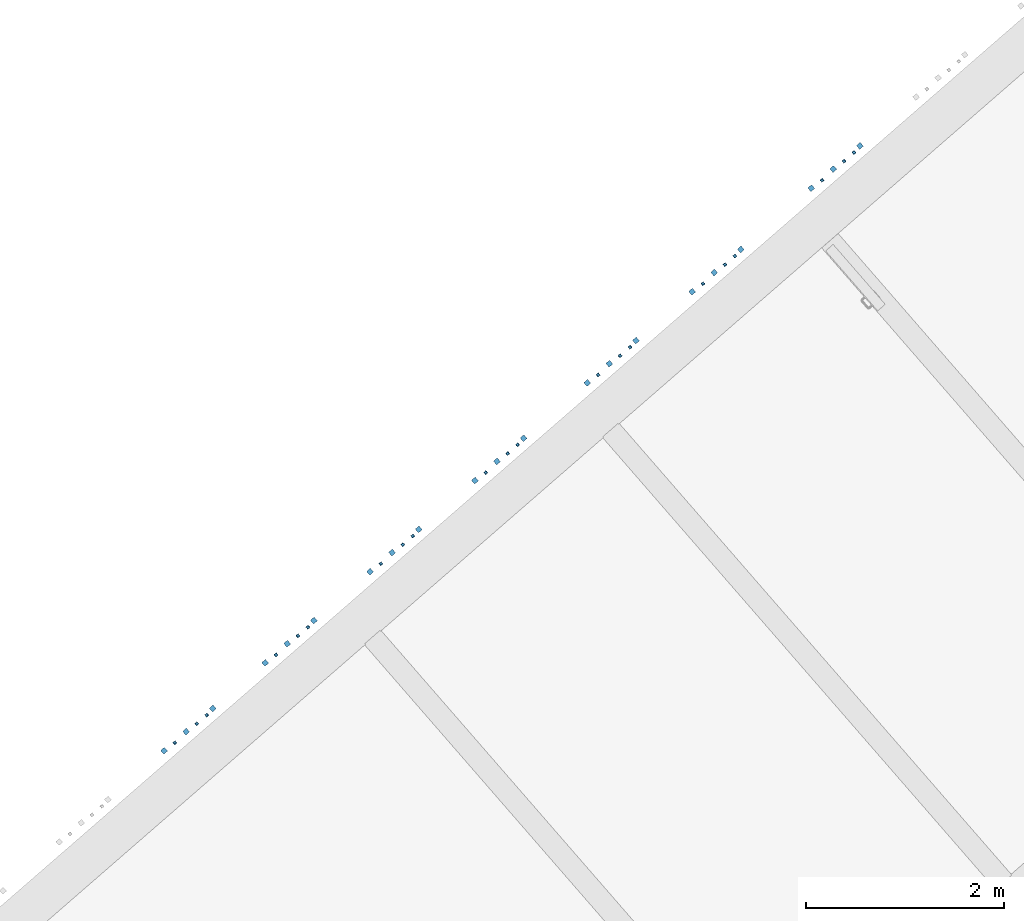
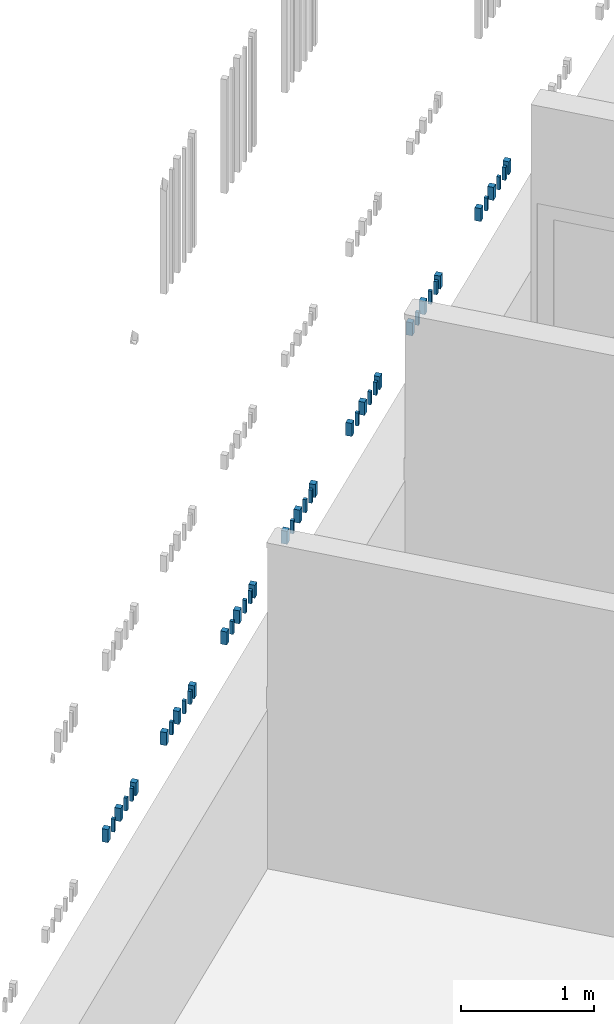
# One storey, part 3 of 124: 42 walls.
"""IFC2X3 building model written with IfcOpenShell, lengths in millimetres."""

from ifc_helpers import new_model, entity, si_unit, converted_unit, derived_unit, money_unit, direction, frame, origin_with_axes, origin_2d_with_axis, place, context, subcontext, project, spatial, rectangle, extrude, material, type_object, element, save


model = new_model("IFC2X3")

# Units and contexts
model_context = context("Model", 3, precision=1e-05, world=origin_with_axes(), true_north=direction((0.0, 1.0)))
body_context = subcontext(model_context, "Body", "Model", "MODEL_VIEW")
ifc_project = project(units=[si_unit("LENGTHUNIT", "METRE", prefix="MILLI"), si_unit("AREAUNIT", "SQUARE_METRE"), si_unit("VOLUMEUNIT", "CUBIC_METRE"), converted_unit("PLANEANGLEUNIT", "DEGREE", entity("IfcPlaneAngleMeasure", 0.0174532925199), si_unit("PLANEANGLEUNIT", "RADIAN"), dimensions=[0, 0, 0, 0, 0, 0, 0]), si_unit("SOLIDANGLEUNIT", "STERADIAN"), money_unit("EUR"), converted_unit("TIMEUNIT", "Year", entity("IfcTimeMeasure", 31556926.0), si_unit("TIMEUNIT", "SECOND"), dimensions=[0, 0, 1, 0, 0, 0, 0]), si_unit("MASSUNIT", "GRAM", prefix="KILO"), si_unit("THERMODYNAMICTEMPERATUREUNIT", "DEGREE_CELSIUS"), si_unit("LUMINOUSINTENSITYUNIT", "LUMEN"), si_unit("ENERGYUNIT", "JOULE", prefix="MEGA"), derived_unit("THERMALCONDUCTANCEUNIT", [(si_unit("POWERUNIT", "WATT"), 1), (si_unit("LENGTHUNIT", "METRE"), -1), (si_unit("THERMODYNAMICTEMPERATUREUNIT", "KELVIN"), -1)]), derived_unit("SPECIFICHEATCAPACITYUNIT", [(si_unit("ENERGYUNIT", "JOULE"), 1), (si_unit("MASSUNIT", "GRAM", prefix="KILO"), -1), (si_unit("THERMODYNAMICTEMPERATUREUNIT", "KELVIN"), -1)]), derived_unit("MASSDENSITYUNIT", [(si_unit("MASSUNIT", "GRAM", prefix="KILO"), 1), (si_unit("VOLUMEUNIT", "CUBIC_METRE"), -1)])], contexts=[model_context])

# Site, building, storey
site_placement = place(None, origin_with_axes())
site = spatial("IfcSite", under=ifc_project, at=site_placement, Name="Site", CompositionType="ELEMENT")
building_placement = place(site_placement, origin_with_axes())
building = spatial("IfcBuilding", under=site, at=building_placement, Name="Building", CompositionType="ELEMENT")
storey_placement = place(building_placement, frame((0.0, 0.0, -1615.0), z_axis=(0.0, 0.0, 1.0), x_axis=(1.0, 0.0, 0.0)))
storey = spatial("IfcBuildingStorey", under=building, at=storey_placement, Name="0  korrus", CompositionType="ELEMENT", Elevation=-1615.0)

# Walls
ifc_material = material(Name="Site specified")
wall_type = type_object("IfcWallType", Name="Puitfassaadi ribistik", PredefinedType="NOTDEFINED")
wall_1_placement = place(storey_placement, frame((146045.134168, 96976.9388997, 1615.0), z_axis=(0.0, 0.0, 1.0), x_axis=(0.754709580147, 0.656059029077, 0.0)))
element("IfcWall", 1, at=wall_1_placement, inside=storey, type_object=wall_type, material=ifc_material, Name="Site specified", context=body_context, shape_type="SweptSolid", body=[
    extrude(rectangle(XDim=28.0, YDim=28.0, at=origin_2d_with_axis()), frame((0.0, 0.0, 0.0), z_axis=(0.0, 0.0, -1.0), x_axis=(-1.0, 0.0, 0.0)), (0.0, 0.0, -1.0), 120.0),
])
for number, where, z_axis, x_axis, name in (
    (2, (146205.465437, 97130.887889, 1615.0), (0.0, 0.0, 1.0), (0.754709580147, 0.656059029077, 0.0), "Site specified"),
    (3, (145936.784575, 96897.3271788, 1615.0), (0.0, 0.0, 1.0), (0.754709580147, 0.656059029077, 0.0), "Site specified"),
):
    element("IfcWall", number, at=place(storey_placement, frame(where, z_axis=z_axis, x_axis=x_axis)), inside=storey, type_object=wall_type, material=ifc_material, Name=name, context=body_context, shape_type="SweptSolid", body=[
        extrude(rectangle(XDim=50.0, YDim=50.0, at=origin_2d_with_axis()), frame((0.0, 0.0, 0.0), z_axis=(0.0, 0.0, -1.0), x_axis=(-1.0, 0.0, 0.0)), (0.0, 0.0, -1.0), 120.0),
    ])
wall_2_placement = place(storey_placement, frame((145824.004282, 96784.7136232, 1615.0), z_axis=(0.0, 0.0, 1.0), x_axis=(0.754709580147, 0.656059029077, 0.0)))
element("IfcWall", 4, at=wall_2_placement, inside=storey, type_object=wall_type, material=ifc_material, Name="Site specified", context=body_context, shape_type="SweptSolid", body=[
    extrude(rectangle(XDim=28.0, YDim=28.0, at=origin_2d_with_axis()), frame((0.0, 0.0, 0.0), z_axis=(0.0, 0.0, -1.0), x_axis=(-1.0, 0.0, 0.0)), (0.0, 0.0, -1.0), 120.0),
])
wall_3_placement = place(storey_placement, frame((145714.89996, 96704.4458257, 1615.0), z_axis=(0.0, 0.0, 1.0), x_axis=(0.754709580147, 0.656059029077, 0.0)))
element("IfcWall", 5, at=wall_3_placement, inside=storey, type_object=wall_type, material=ifc_material, Name="Site specified", context=body_context, shape_type="SweptSolid", body=[
    extrude(rectangle(XDim=50.0, YDim=50.0, at=origin_2d_with_axis()), frame((0.0, 0.0, 0.0), z_axis=(0.0, 0.0, -1.0), x_axis=(-1.0, 0.0, 0.0)), (0.0, 0.0, -1.0), 120.0),
])
for number, where, z_axis, x_axis, name in (
    (6, (146145.510541, 97064.19475, 1615.0), (0.0, 0.0, 1.0), (0.754709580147, 0.656059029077, 0.0), "Site specified"),
    (7, (147164.368471, 97949.8744368, 1615.0), (0.0, 0.0, 1.0), (0.754709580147, 0.656059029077, 0.0), "Site specified"),
    (8, (147063.992098, 97862.6185865, 1615.0), (0.0, 0.0, 1.0), (0.754709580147, 0.656059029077, 0.0), "Site specified"),
):
    element("IfcWall", number, at=place(storey_placement, frame(where, z_axis=z_axis, x_axis=x_axis)), inside=storey, type_object=wall_type, material=ifc_material, Name=name, context=body_context, shape_type="SweptSolid", body=[
        extrude(rectangle(XDim=28.0, YDim=28.0, at=origin_2d_with_axis()), frame((0.0, 0.0, 0.0), z_axis=(0.0, 0.0, -1.0), x_axis=(-1.0, 0.0, 0.0)), (0.0, 0.0, -1.0), 120.0),
    ])
for number, where, z_axis, x_axis, name in (
    (9, (147224.323367, 98016.5675757, 1615.0), (0.0, 0.0, 1.0), (0.754709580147, 0.656059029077, 0.0), "Site specified"),
    (10, (146955.642505, 97783.0068656, 1615.0), (0.0, 0.0, 1.0), (0.754709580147, 0.656059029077, 0.0), "Site specified"),
    (11, (152235.590973, 102372.796046, 1615.0), (0.0, 0.0, 1.0), (0.754709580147, 0.656059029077, 0.0), "Site specified"),
):
    element("IfcWall", number, at=place(storey_placement, frame(where, z_axis=z_axis, x_axis=x_axis)), inside=storey, type_object=wall_type, material=ifc_material, Name=name, context=body_context, shape_type="SweptSolid", body=[
        extrude(rectangle(XDim=50.0, YDim=50.0, at=origin_2d_with_axis()), frame((0.0, 0.0, 0.0), z_axis=(0.0, 0.0, -1.0), x_axis=(-1.0, 0.0, 0.0)), (0.0, 0.0, -1.0), 120.0),
    ])
for number, where, z_axis, x_axis, name in (
    (12, (152344.695295, 102453.063844, 1615.0), (0.0, 0.0, 1.0), (0.754709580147, 0.656059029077, 0.0), "Site specified"),
    (13, (152666.201554, 102732.54497, 1615.0), (0.0, 0.0, 1.0), (0.754709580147, 0.656059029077, 0.0), "Site specified"),
    (14, (152565.825181, 102645.28912, 1615.0), (0.0, 0.0, 1.0), (0.754709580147, 0.656059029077, 0.0), "Site specified"),
):
    element("IfcWall", number, at=place(storey_placement, frame(where, z_axis=z_axis, x_axis=x_axis)), inside=storey, type_object=wall_type, material=ifc_material, Name=name, context=body_context, shape_type="SweptSolid", body=[
        extrude(rectangle(XDim=28.0, YDim=28.0, at=origin_2d_with_axis()), frame((0.0, 0.0, 0.0), z_axis=(0.0, 0.0, -1.0), x_axis=(-1.0, 0.0, 0.0)), (0.0, 0.0, -1.0), 120.0),
    ])
for number, where, z_axis, x_axis, name in (
    (15, (152726.15645, 102799.238109, 1615.0), (0.0, 0.0, 1.0), (0.754709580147, 0.656059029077, 0.0), "Site specified"),
    (16, (152457.475588, 102565.677399, 1615.0), (0.0, 0.0, 1.0), (0.754709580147, 0.656059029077, 0.0), "Site specified"),
    (17, (147790.351199, 98508.6080632, 1615.0), (0.0, 0.0, 1.0), (0.754709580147, 0.656059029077, 0.0), "Site specified"),
):
    element("IfcWall", number, at=place(storey_placement, frame(where, z_axis=z_axis, x_axis=x_axis)), inside=storey, type_object=wall_type, material=ifc_material, Name=name, context=body_context, shape_type="SweptSolid", body=[
        extrude(rectangle(XDim=50.0, YDim=50.0, at=origin_2d_with_axis()), frame((0.0, 0.0, 0.0), z_axis=(0.0, 0.0, -1.0), x_axis=(-1.0, 0.0, 0.0)), (0.0, 0.0, -1.0), 120.0),
    ])
for number, where, z_axis, x_axis, name in (
    (18, (148220.96178, 98868.3569875, 1615.0), (0.0, 0.0, 1.0), (0.754709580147, 0.656059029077, 0.0), "Site specified"),
    (19, (147899.455521, 98588.8758606, 1615.0), (0.0, 0.0, 1.0), (0.754709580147, 0.656059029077, 0.0), "Site specified"),
    (20, (148120.585406, 98781.1011372, 1615.0), (0.0, 0.0, 1.0), (0.754709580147, 0.656059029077, 0.0), "Site specified"),
):
    element("IfcWall", number, at=place(storey_placement, frame(where, z_axis=z_axis, x_axis=x_axis)), inside=storey, type_object=wall_type, material=ifc_material, Name=name, context=body_context, shape_type="SweptSolid", body=[
        extrude(rectangle(XDim=28.0, YDim=28.0, at=origin_2d_with_axis()), frame((0.0, 0.0, 0.0), z_axis=(0.0, 0.0, -1.0), x_axis=(-1.0, 0.0, 0.0)), (0.0, 0.0, -1.0), 120.0),
    ])
for number, where, z_axis, x_axis, name in (
    (21, (148280.916676, 98935.0501264, 1615.0), (0.0, 0.0, 1.0), (0.754709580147, 0.656059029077, 0.0), "Site specified"),
    (22, (148012.235814, 98701.4894163, 1615.0), (0.0, 0.0, 1.0), (0.754709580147, 0.656059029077, 0.0), "Site specified"),
    (23, (146733.75789, 97590.1255125, 1615.0), (0.0, 0.0, 1.0), (0.754709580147, 0.656059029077, 0.0), "Site specified"),
):
    element("IfcWall", number, at=place(storey_placement, frame(where, z_axis=z_axis, x_axis=x_axis)), inside=storey, type_object=wall_type, material=ifc_material, Name=name, context=body_context, shape_type="SweptSolid", body=[
        extrude(rectangle(XDim=50.0, YDim=50.0, at=origin_2d_with_axis()), frame((0.0, 0.0, 0.0), z_axis=(0.0, 0.0, -1.0), x_axis=(-1.0, 0.0, 0.0)), (0.0, 0.0, -1.0), 120.0),
    ])
wall_4_placement = place(storey_placement, frame((146842.862213, 97670.3933099, 1615.0), z_axis=(0.0, 0.0, 1.0), x_axis=(0.754709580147, 0.656059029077, 0.0)))
element("IfcWall", 24, at=wall_4_placement, inside=storey, type_object=wall_type, material=ifc_material, Name="Site specified", context=body_context, shape_type="SweptSolid", body=[
    extrude(rectangle(XDim=28.0, YDim=28.0, at=origin_2d_with_axis()), frame((0.0, 0.0, 0.0), z_axis=(0.0, 0.0, -1.0), x_axis=(-1.0, 0.0, 0.0)), (0.0, 0.0, -1.0), 120.0),
])
wall_5_placement = place(storey_placement, frame((149068.82933, 99619.9721469, 1615.0), z_axis=(0.0, 0.0, 1.0), x_axis=(0.754709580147, 0.656059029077, 0.0)))
element("IfcWall", 25, at=wall_5_placement, inside=storey, type_object=wall_type, material=ifc_material, Name="Site specified", context=body_context, shape_type="SweptSolid", body=[
    extrude(rectangle(XDim=50.0, YDim=50.0, at=origin_2d_with_axis()), frame((0.0, 0.0, 0.0), z_axis=(0.0, 0.0, -1.0), x_axis=(-1.0, 0.0, 0.0)), (0.0, 0.0, -1.0), 120.0),
])
for number, where, z_axis, x_axis, name in (
    (26, (149177.178922, 99699.5838678, 1615.0), (0.0, 0.0, 1.0), (0.754709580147, 0.656059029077, 0.0), "Site specified"),
    (27, (149277.555296, 99786.8397181, 1615.0), (0.0, 0.0, 1.0), (0.754709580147, 0.656059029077, 0.0), "Site specified"),
    (28, (148956.049037, 99507.3585913, 1615.0), (0.0, 0.0, 1.0), (0.754709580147, 0.656059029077, 0.0), "Site specified"),
):
    element("IfcWall", number, at=place(storey_placement, frame(where, z_axis=z_axis, x_axis=x_axis)), inside=storey, type_object=wall_type, material=ifc_material, Name=name, context=body_context, shape_type="SweptSolid", body=[
        extrude(rectangle(XDim=28.0, YDim=28.0, at=origin_2d_with_axis()), frame((0.0, 0.0, 0.0), z_axis=(0.0, 0.0, -1.0), x_axis=(-1.0, 0.0, 0.0)), (0.0, 0.0, -1.0), 120.0),
    ])
for number, where, z_axis, x_axis, name in (
    (29, (148846.944715, 99427.0907938, 1615.0), (0.0, 0.0, 1.0), (0.754709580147, 0.656059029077, 0.0), "Site specified"),
    (30, (149337.510192, 99853.5328571, 1615.0), (0.0, 0.0, 1.0), (0.754709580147, 0.656059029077, 0.0), "Site specified"),
    (31, (150200.8937, 100604.060691, 1615.0), (0.0, 0.0, 1.0), (0.754709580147, 0.656059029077, 0.0), "Site specified"),
    (32, (150469.574562, 100837.621401, 1615.0), (0.0, 0.0, 1.0), (0.754709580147, 0.656059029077, 0.0), "Site specified"),
):
    element("IfcWall", number, at=place(storey_placement, frame(where, z_axis=z_axis, x_axis=x_axis)), inside=storey, type_object=wall_type, material=ifc_material, Name=name, context=body_context, shape_type="SweptSolid", body=[
        extrude(rectangle(XDim=50.0, YDim=50.0, at=origin_2d_with_axis()), frame((0.0, 0.0, 0.0), z_axis=(0.0, 0.0, -1.0), x_axis=(-1.0, 0.0, 0.0)), (0.0, 0.0, -1.0), 120.0),
    ])
for number, where, z_axis, x_axis, name in (
    (33, (150309.243292, 100683.672412, 1615.0), (0.0, 0.0, 1.0), (0.754709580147, 0.656059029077, 0.0), "Site specified"),
    (34, (150409.619666, 100770.928262, 1615.0), (0.0, 0.0, 1.0), (0.754709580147, 0.656059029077, 0.0), "Site specified"),
):
    element("IfcWall", number, at=place(storey_placement, frame(where, z_axis=z_axis, x_axis=x_axis)), inside=storey, type_object=wall_type, material=ifc_material, Name=name, context=body_context, shape_type="SweptSolid", body=[
        extrude(rectangle(XDim=28.0, YDim=28.0, at=origin_2d_with_axis()), frame((0.0, 0.0, 0.0), z_axis=(0.0, 0.0, -1.0), x_axis=(-1.0, 0.0, 0.0)), (0.0, 0.0, -1.0), 120.0),
    ])
wall_6_placement = place(storey_placement, frame((149979.009085, 100411.179338, 1615.0), z_axis=(0.0, 0.0, 1.0), x_axis=(0.754709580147, 0.656059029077, 0.0)))
element("IfcWall", 35, at=wall_6_placement, inside=storey, type_object=wall_type, material=ifc_material, Name="Site specified", context=body_context, shape_type="SweptSolid", body=[
    extrude(rectangle(XDim=50.0, YDim=50.0, at=origin_2d_with_axis()), frame((0.0, 0.0, 0.0), z_axis=(0.0, 0.0, -1.0), x_axis=(-1.0, 0.0, 0.0)), (0.0, 0.0, -1.0), 120.0),
])
wall_7_placement = place(storey_placement, frame((150088.113407, 100491.447135, 1615.0), z_axis=(0.0, 0.0, 1.0), x_axis=(0.754709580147, 0.656059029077, 0.0)))
element("IfcWall", 36, at=wall_7_placement, inside=storey, type_object=wall_type, material=ifc_material, Name="Site specified", context=body_context, shape_type="SweptSolid", body=[
    extrude(rectangle(XDim=28.0, YDim=28.0, at=origin_2d_with_axis()), frame((0.0, 0.0, 0.0), z_axis=(0.0, 0.0, -1.0), x_axis=(-1.0, 0.0, 0.0)), (0.0, 0.0, -1.0), 120.0),
])
for number, where, z_axis, x_axis, name in (
    (37, (151257.487356, 101522.543543, 1615.0), (0.0, 0.0, 1.0), (0.754709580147, 0.656059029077, 0.0), "Site specified"),
    (38, (151526.168218, 101756.104253, 1615.0), (0.0, 0.0, 1.0), (0.754709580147, 0.656059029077, 0.0), "Site specified"),
):
    element("IfcWall", number, at=place(storey_placement, frame(where, z_axis=z_axis, x_axis=x_axis)), inside=storey, type_object=wall_type, material=ifc_material, Name=name, context=body_context, shape_type="SweptSolid", body=[
        extrude(rectangle(XDim=50.0, YDim=50.0, at=origin_2d_with_axis()), frame((0.0, 0.0, 0.0), z_axis=(0.0, 0.0, -1.0), x_axis=(-1.0, 0.0, 0.0)), (0.0, 0.0, -1.0), 120.0),
    ])
for number, where, z_axis, x_axis, name in (
    (39, (151365.836948, 101602.155264, 1615.0), (0.0, 0.0, 1.0), (0.754709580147, 0.656059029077, 0.0), "Site specified"),
    (40, (151466.213322, 101689.411114, 1615.0), (0.0, 0.0, 1.0), (0.754709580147, 0.656059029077, 0.0), "Site specified"),
    (41, (151144.707063, 101409.929987, 1615.0), (0.0, 0.0, 1.0), (0.754709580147, 0.656059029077, 0.0), "Site specified"),
):
    element("IfcWall", number, at=place(storey_placement, frame(where, z_axis=z_axis, x_axis=x_axis)), inside=storey, type_object=wall_type, material=ifc_material, Name=name, context=body_context, shape_type="SweptSolid", body=[
        extrude(rectangle(XDim=28.0, YDim=28.0, at=origin_2d_with_axis()), frame((0.0, 0.0, 0.0), z_axis=(0.0, 0.0, -1.0), x_axis=(-1.0, 0.0, 0.0)), (0.0, 0.0, -1.0), 120.0),
    ])
wall_8_placement = place(storey_placement, frame((151035.602741, 101329.66219, 1615.0), z_axis=(0.0, 0.0, 1.0), x_axis=(0.754709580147, 0.656059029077, 0.0)))
element("IfcWall", 42, at=wall_8_placement, inside=storey, type_object=wall_type, material=ifc_material, Name="Site specified", context=body_context, shape_type="SweptSolid", body=[
    extrude(rectangle(XDim=50.0, YDim=50.0, at=origin_2d_with_axis()), frame((0.0, 0.0, 0.0), z_axis=(0.0, 0.0, -1.0), x_axis=(-1.0, 0.0, 0.0)), (0.0, 0.0, -1.0), 120.0),
])

save(model, "model.ifc")
